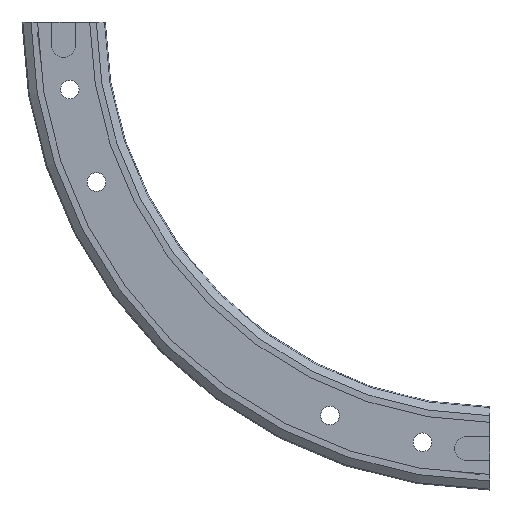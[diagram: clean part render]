
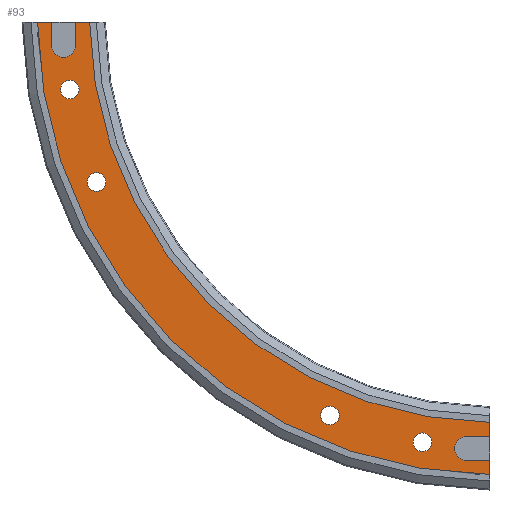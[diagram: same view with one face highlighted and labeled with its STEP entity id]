
A CAD part, front view. The second image highlights one B-rep face of the part: STEP entity #93.
In plain terms, the highlighted planar face has unit normal (0, -1, 0).
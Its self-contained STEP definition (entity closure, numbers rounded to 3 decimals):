
#93 = ADVANCED_FACE( '', ( #195, #196, #197, #198, #199 ), #200, .T. );
#195 = FACE_BOUND( '', #375, .T. );
#196 = FACE_BOUND( '', #376, .T. );
#197 = FACE_BOUND( '', #377, .T. );
#198 = FACE_BOUND( '', #378, .T. );
#199 = FACE_OUTER_BOUND( '', #379, .T. );
#200 = PLANE( '', #380 );
#375 = EDGE_LOOP( '', ( #640 ) );
#376 = EDGE_LOOP( '', ( #641 ) );
#377 = EDGE_LOOP( '', ( #642 ) );
#378 = EDGE_LOOP( '', ( #643 ) );
#379 = EDGE_LOOP( '', ( #644, #645, #646, #647, #648, #649, #650, #651, #652, #653, #654, #655 ) );
#380 = AXIS2_PLACEMENT_3D( '', #656, #657, #658 );
#640 = ORIENTED_EDGE( '', *, *, #1125, .F. );
#641 = ORIENTED_EDGE( '', *, *, #1126, .F. );
#642 = ORIENTED_EDGE( '', *, *, #1112, .F. );
#643 = ORIENTED_EDGE( '', *, *, #1116, .F. );
#644 = ORIENTED_EDGE( '', *, *, #1103, .T. );
#645 = ORIENTED_EDGE( '', *, *, #1100, .T. );
#646 = ORIENTED_EDGE( '', *, *, #1127, .T. );
#647 = ORIENTED_EDGE( '', *, *, #1121, .T. );
#648 = ORIENTED_EDGE( '', *, *, #1070, .T. );
#649 = ORIENTED_EDGE( '', *, *, #1111, .T. );
#650 = ORIENTED_EDGE( '', *, *, #1109, .T. );
#651 = ORIENTED_EDGE( '', *, *, #1107, .T. );
#652 = ORIENTED_EDGE( '', *, *, #1086, .T. );
#653 = ORIENTED_EDGE( '', *, *, #1128, .F. );
#654 = ORIENTED_EDGE( '', *, *, #1129, .T. );
#655 = ORIENTED_EDGE( '', *, *, #1098, .T. );
#656 = CARTESIAN_POINT( '', ( -119.8, 0., 0. ) );
#657 = DIRECTION( '', ( 0., -1., 0. ) );
#658 = DIRECTION( '', ( 0., 0., -1. ) );
#1070 = EDGE_CURVE( '', #1241, #1239, #1242, .T. );
#1086 = EDGE_CURVE( '', #1273, #1271, #1274, .T. );
#1098 = EDGE_CURVE( '', #1295, #1293, #1296, .T. );
#1100 = EDGE_CURVE( '', #1298, #1299, #1300, .T. );
#1103 = EDGE_CURVE( '', #1293, #1298, #1303, .T. );
#1107 = EDGE_CURVE( '', #1309, #1273, #1310, .T. );
#1109 = EDGE_CURVE( '', #1312, #1309, #1313, .T. );
#1111 = EDGE_CURVE( '', #1239, #1312, #1315, .T. );
#1112 = EDGE_CURVE( '', #1316, #1316, #1317, .T. );
#1116 = EDGE_CURVE( '', #1324, #1324, #1325, .T. );
#1121 = EDGE_CURVE( '', #1334, #1241, #1335, .T. );
#1125 = EDGE_CURVE( '', #1341, #1341, #1342, .T. );
#1126 = EDGE_CURVE( '', #1343, #1343, #1344, .T. );
#1127 = EDGE_CURVE( '', #1299, #1334, #1345, .T. );
#1128 = EDGE_CURVE( '', #1346, #1271, #1347, .T. );
#1129 = EDGE_CURVE( '', #1346, #1295, #1348, .T. );
#1239 = VERTEX_POINT( '', #1528 );
#1241 = VERTEX_POINT( '', #1531 );
#1242 = LINE( '', #1532, #1533 );
#1271 = VERTEX_POINT( '', #1600 );
#1273 = VERTEX_POINT( '', #1603 );
#1274 = LINE( '', #1604, #1605 );
#1293 = VERTEX_POINT( '', #1686 );
#1295 = VERTEX_POINT( '', #1689 );
#1296 = LINE( '', #1690, #1691 );
#1298 = VERTEX_POINT( '', #1694 );
#1299 = VERTEX_POINT( '', #1695 );
#1300 = LINE( '', #1696, #1697 );
#1303 = CIRCLE( '', #1702, 3.5 );
#1309 = VERTEX_POINT( '', #1710 );
#1310 = LINE( '', #1711, #1712 );
#1312 = VERTEX_POINT( '', #1715 );
#1313 = CIRCLE( '', #1716, 3.5 );
#1315 = LINE( '', #1719, #1720 );
#1316 = VERTEX_POINT( '', #1721 );
#1317 = CIRCLE( '', #1722, 2.75 );
#1324 = VERTEX_POINT( '', #1729 );
#1325 = CIRCLE( '', #1730, 2.75 );
#1334 = VERTEX_POINT( '', #1796 );
#1335 = CIRCLE( '', #1797, 135.2 );
#1341 = VERTEX_POINT( '', #1859 );
#1342 = CIRCLE( '', #1860, 2.75 );
#1343 = VERTEX_POINT( '', #1861 );
#1344 = CIRCLE( '', #1862, 2.75 );
#1345 = LINE( '', #1863, #1864 );
#1346 = VERTEX_POINT( '', #1865 );
#1347 = CIRCLE( '', #1866, 119.8 );
#1348 = LINE( '', #1867, #1868 );
#1528 = CARTESIAN_POINT( '', ( -1.5, 0., -131. ) );
#1531 = CARTESIAN_POINT( '', ( -1.5, 0., -135.192 ) );
#1532 = CARTESIAN_POINT( '', ( -1.5, 0., -140.37 ) );
#1533 = VECTOR( '', #2210, 1000. );
#1600 = CARTESIAN_POINT( '', ( -1.5, 0., -119.791 ) );
#1603 = CARTESIAN_POINT( '', ( -1.5, 0., -124. ) );
#1604 = CARTESIAN_POINT( '', ( -1.5, 0., -140.37 ) );
#1605 = VECTOR( '', #2220, 1000. );
#1686 = CARTESIAN_POINT( '', ( -124., 0., -8.5 ) );
#1689 = CARTESIAN_POINT( '', ( -124., 0., -1.5 ) );
#1690 = CARTESIAN_POINT( '', ( -124., 0., 0. ) );
#1691 = VECTOR( '', #2238, 1000. );
#1694 = CARTESIAN_POINT( '', ( -131., 0., -8.5 ) );
#1695 = CARTESIAN_POINT( '', ( -131., 0., -1.5 ) );
#1696 = CARTESIAN_POINT( '', ( -131., 0., -8.5 ) );
#1697 = VECTOR( '', #2240, 1000. );
#1702 = AXIS2_PLACEMENT_3D( '', #2243, #2244, #2245 );
#1710 = CARTESIAN_POINT( '', ( -8.5, 0., -124. ) );
#1711 = CARTESIAN_POINT( '', ( -8.5, 0., -124. ) );
#1712 = VECTOR( '', #2251, 1000. );
#1715 = CARTESIAN_POINT( '', ( -8.5, 0., -131. ) );
#1716 = AXIS2_PLACEMENT_3D( '', #2253, #2254, #2255 );
#1719 = CARTESIAN_POINT( '', ( 0., 0., -131. ) );
#1720 = VECTOR( '', #2257, 1000. );
#1721 = CARTESIAN_POINT( '', ( -117.795, 0., -51.542 ) );
#1722 = AXIS2_PLACEMENT_3D( '', #2258, #2259, #2260 );
#1729 = CARTESIAN_POINT( '', ( -48.792, 0., -120.545 ) );
#1730 = AXIS2_PLACEMENT_3D( '', #2270, #2271, #2272 );
#1796 = CARTESIAN_POINT( '', ( -135.192, 0., -1.5 ) );
#1797 = AXIS2_PLACEMENT_3D( '', #2282, #2283, #2284 );
#1859 = CARTESIAN_POINT( '', ( -125.677, 0., -24.232 ) );
#1860 = AXIS2_PLACEMENT_3D( '', #2289, #2290, #2291 );
#1861 = CARTESIAN_POINT( '', ( -21.482, 0., -128.427 ) );
#1862 = AXIS2_PLACEMENT_3D( '', #2292, #2293, #2294 );
#1863 = CARTESIAN_POINT( '', ( -1.5, 0., -1.5 ) );
#1864 = VECTOR( '', #2295, 1000. );
#1865 = CARTESIAN_POINT( '', ( -119.791, 0., -1.5 ) );
#1866 = AXIS2_PLACEMENT_3D( '', #2296, #2297, #2298 );
#1867 = CARTESIAN_POINT( '', ( -1.5, 0., -1.5 ) );
#1868 = VECTOR( '', #2299, 1000. );
#2210 = DIRECTION( '', ( 0., 0., 1. ) );
#2220 = DIRECTION( '', ( 0., 0., 1. ) );
#2238 = DIRECTION( '', ( 0., 0., -1. ) );
#2240 = DIRECTION( '', ( 0., 0., 1. ) );
#2243 = CARTESIAN_POINT( '', ( -127.5, 0., -8.5 ) );
#2244 = DIRECTION( '', ( 0., 1., 0. ) );
#2245 = DIRECTION( '', ( 1., 0., 0. ) );
#2251 = DIRECTION( '', ( 1., 0., 0. ) );
#2253 = CARTESIAN_POINT( '', ( -8.5, 0., -127.5 ) );
#2254 = DIRECTION( '', ( 0., 1., 0. ) );
#2255 = DIRECTION( '', ( 1., 0., 0. ) );
#2257 = DIRECTION( '', ( -1., 0., 0. ) );
#2258 = CARTESIAN_POINT( '', ( -117.795, 0., -48.792 ) );
#2259 = DIRECTION( '', ( 0., -1., 0. ) );
#2260 = DIRECTION( '', ( 0., 0., -1. ) );
#2270 = CARTESIAN_POINT( '', ( -48.792, 0., -117.795 ) );
#2271 = DIRECTION( '', ( 0., -1., 0. ) );
#2272 = DIRECTION( '', ( 0., 0., -1. ) );
#2282 = CARTESIAN_POINT( '', ( 0., 0., 0. ) );
#2283 = DIRECTION( '', ( 0., -1., 0. ) );
#2284 = DIRECTION( '', ( 0., 0., -1. ) );
#2289 = CARTESIAN_POINT( '', ( -125.677, 0., -21.482 ) );
#2290 = DIRECTION( '', ( 0., -1., 0. ) );
#2291 = DIRECTION( '', ( 0., 0., -1. ) );
#2292 = CARTESIAN_POINT( '', ( -21.482, 0., -125.677 ) );
#2293 = DIRECTION( '', ( 0., -1., 0. ) );
#2294 = DIRECTION( '', ( 0., 0., -1. ) );
#2295 = DIRECTION( '', ( -1., 0., 0. ) );
#2296 = CARTESIAN_POINT( '', ( 0., 0., 0. ) );
#2297 = DIRECTION( '', ( 0., -1., 0. ) );
#2298 = DIRECTION( '', ( 0., 0., -1. ) );
#2299 = DIRECTION( '', ( -1., 0., 0. ) );
